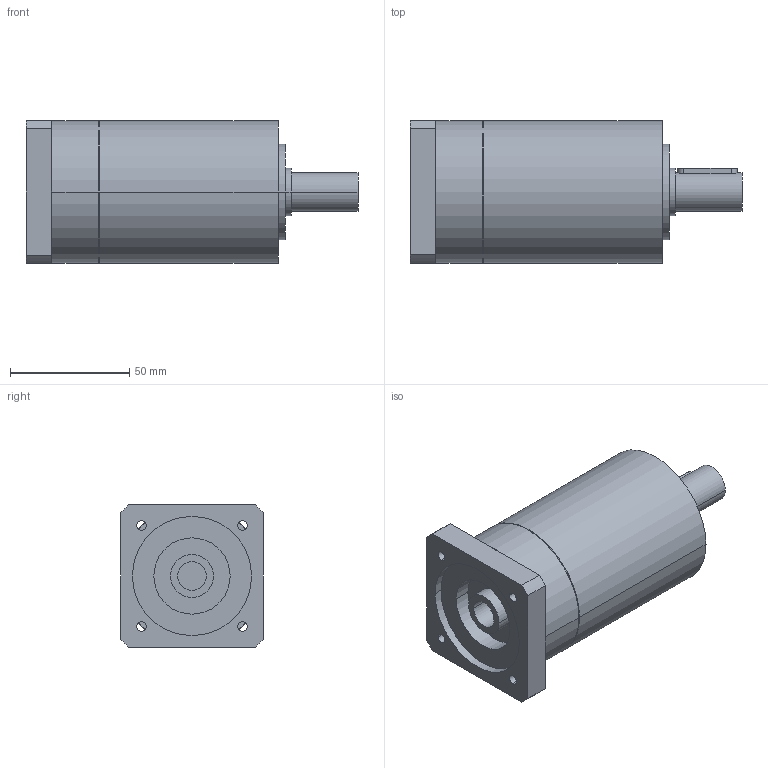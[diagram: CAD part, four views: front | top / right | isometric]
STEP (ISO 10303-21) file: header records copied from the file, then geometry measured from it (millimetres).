
FILE_DESCRIPTION(('CoCreate Modeling STEP Export'),'2;1');
FILE_NAME('GPR75_ig-9-12-16-20-24-30-36_16_B14_12_P18.stp','2014-08-25T16:02:45',(''),(''),'CoCreate Modeling STEP processor for AP214 (Solid Model)','CoCreate Modeling 16.00C 25-Feb-2009 (C) Parametric Technology GmbH','');
FILE_SCHEMA(('AUTOMOTIVE_DESIGN { 1 0 10303 214 1 1 1 1 }'));
Length unit declared in the file: millimetre
Products named in the file (2): GPR75_ig-9-12-16-20-24-30-36_16_B14_12_P18
Assembly tree (1 placements, depth 2):
  GPR75_ig-9-12-16-20-24-30-36_16_B14_12_P18
    GPR75_ig-9-12-16-20-24-30-36_16_B14_12_P18
Bounding box: 139.4 x 60 x 60 mm (x, y, z)
Volume: 302137 mm3; surface area: 33760.7 mm2
Topology: 1 solids, 1 shells, 74 faces, 200 edges, 136 vertices
Faces by surface type: cylinder 42, plane 26, cone 6
Entity records: 2017 total; most frequent: ORIENTED_EDGE 396, CARTESIAN_POINT 370, DIRECTION 274, EDGE_CURVE 198, VERTEX_POINT 136, AXIS2_PLACEMENT_3D 104, EDGE_LOOP 92, FACE_OUTER_BOUND 74
